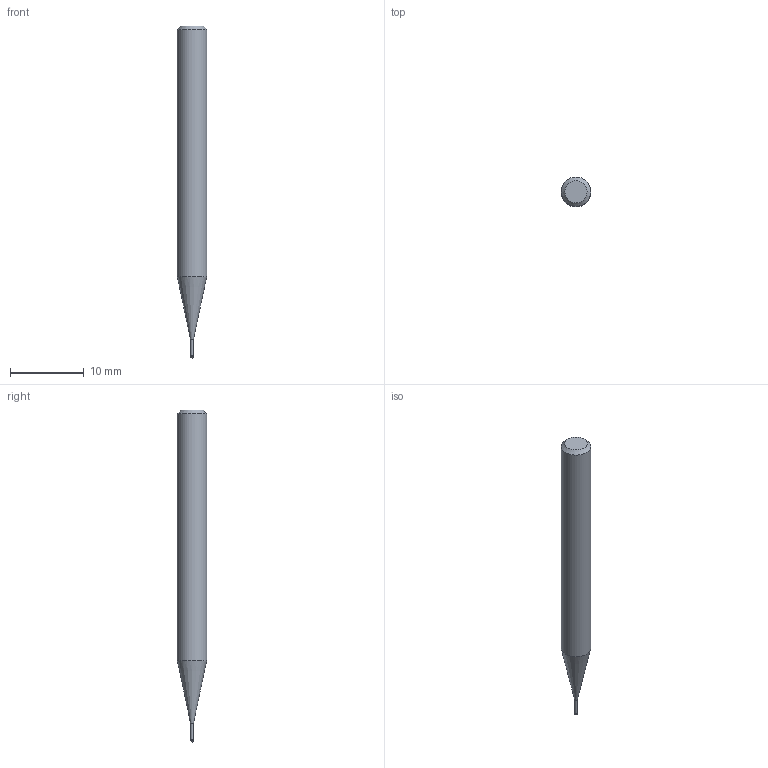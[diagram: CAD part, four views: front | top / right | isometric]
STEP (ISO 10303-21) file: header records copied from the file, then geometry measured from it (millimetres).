
FILE_DESCRIPTION((''),'2;1');
FILE_NAME('C:\Users\nsx150\AppData\Local\Temp\Mastercam 2021\AP8FW4WOPM\TEMP.step','2024-10-16T18:40:06',(''),(''),'STEP Write','Mastercam 2021 ... CNC Software, Inc.','');
FILE_SCHEMA(('AUTOMOTIVE_DESIGN'));
Length unit declared in the file: millimetre
Products named in the file (1): None
Bounding box: 4 x 4 x 45 mm (x, y, z)
Volume: 465 mm3; surface area: 498.4 mm2
Topology: 2 solids, 2 shells, 9 faces, 14 edges, 8 vertices
Faces by surface type: plane 3, cylinder 3, cone 2, sphere 1
Full cylindrical faces by diameter (mm): 0.37 x1, 0.4 x1, 4 x1
Entity records: 211 total; most frequent: DIRECTION 36, CARTESIAN_POINT 25, AXIS2_PLACEMENT_3D 18, ORIENTED_EDGE 14, EDGE_LOOP 14, STYLED_ITEM 12, ADVANCED_FACE 9, FACE_BOUND 8
